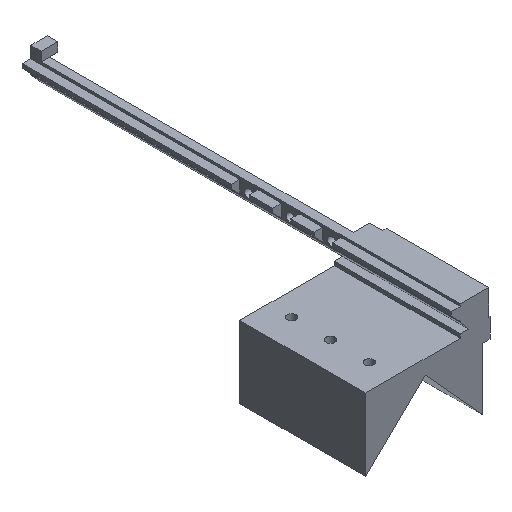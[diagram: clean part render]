
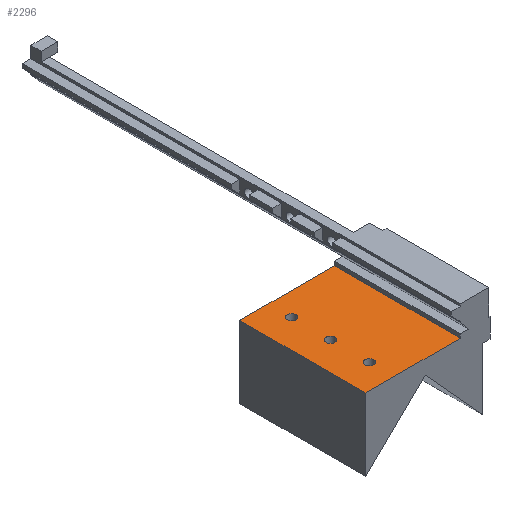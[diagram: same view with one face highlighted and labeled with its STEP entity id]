
A CAD part, isometric view. The second image highlights one B-rep face of the part: STEP entity #2296.
In plain terms, the highlighted planar face has unit normal (0, 0, 1).
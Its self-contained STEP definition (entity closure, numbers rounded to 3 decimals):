
#44 = PLANE('',#45);
#45 = AXIS2_PLACEMENT_3D('',#46,#47,#48);
#46 = CARTESIAN_POINT('',(-14.45,-51.5,93.5));
#47 = DIRECTION('',(0.,1.,0.));
#48 = DIRECTION('',(0.,0.,1.));
#492 = VERTEX_POINT('',#493);
#493 = CARTESIAN_POINT('',(-51.,-51.5,92.));
#507 = PLANE('',#508);
#508 = AXIS2_PLACEMENT_3D('',#509,#510,#511);
#509 = CARTESIAN_POINT('',(-51.,-3.,92.));
#510 = DIRECTION('',(1.,0.,0.));
#511 = DIRECTION('',(0.,0.,-1.));
#519 = EDGE_CURVE('',#520,#492,#522,.T.);
#520 = VERTEX_POINT('',#521);
#521 = CARTESIAN_POINT('',(-14.45,-51.5,92.));
#522 = SURFACE_CURVE('',#523,(#527,#534),.PCURVE_S1.);
#523 = LINE('',#524,#525);
#524 = CARTESIAN_POINT('',(-3.,-51.5,92.));
#525 = VECTOR('',#526,1.);
#526 = DIRECTION('',(-1.,0.,0.));
#527 = PCURVE('',#44,#528);
#528 = DEFINITIONAL_REPRESENTATION('',(#529),#533);
#529 = LINE('',#530,#531);
#530 = CARTESIAN_POINT('',(-1.5,11.45));
#531 = VECTOR('',#532,1.);
#532 = DIRECTION('',(0.,-1.));
#533 = ( GEOMETRIC_REPRESENTATION_CONTEXT(2) 
PARAMETRIC_REPRESENTATION_CONTEXT() REPRESENTATION_CONTEXT('2D SPACE',''
  ) );
#534 = PCURVE('',#535,#540);
#535 = PLANE('',#536);
#536 = AXIS2_PLACEMENT_3D('',#537,#538,#539);
#537 = CARTESIAN_POINT('',(-6.,-3.,92.));
#538 = DIRECTION('',(-0.,-0.,-1.));
#539 = DIRECTION('',(-1.,0.,0.));
#540 = DEFINITIONAL_REPRESENTATION('',(#541),#545);
#541 = LINE('',#542,#543);
#542 = CARTESIAN_POINT('',(-3.,-48.5));
#543 = VECTOR('',#544,1.);
#544 = DIRECTION('',(1.,0.));
#545 = ( GEOMETRIC_REPRESENTATION_CONTEXT(2) 
PARAMETRIC_REPRESENTATION_CONTEXT() REPRESENTATION_CONTEXT('2D SPACE',''
  ) );
#563 = PLANE('',#564);
#564 = AXIS2_PLACEMENT_3D('',#565,#566,#567);
#565 = CARTESIAN_POINT('',(-14.45,-51.5,91.5));
#566 = DIRECTION('',(1.,0.,0.));
#567 = DIRECTION('',(0.,0.,1.));
#1733 = PLANE('',#1734);
#1734 = AXIS2_PLACEMENT_3D('',#1735,#1736,#1737);
#1735 = CARTESIAN_POINT('',(-28.1,-3.,80.419));
#1736 = DIRECTION('',(-0.,-1.,-0.));
#1737 = DIRECTION('',(0.,0.,-1.));
#2093 = CYLINDRICAL_SURFACE('',#2094,1.7);
#2094 = AXIS2_PLACEMENT_3D('',#2095,#2096,#2097);
#2095 = CARTESIAN_POINT('',(-40.,-42.,70.));
#2096 = DIRECTION('',(-0.,0.,-1.));
#2097 = DIRECTION('',(0.,1.,0.));
#2151 = CYLINDRICAL_SURFACE('',#2152,1.7);
#2152 = AXIS2_PLACEMENT_3D('',#2153,#2154,#2155);
#2153 = CARTESIAN_POINT('',(-40.,-27.,70.));
#2154 = DIRECTION('',(-0.,0.,-1.));
#2155 = DIRECTION('',(0.,1.,0.));
#2209 = CYLINDRICAL_SURFACE('',#2210,1.7);
#2210 = AXIS2_PLACEMENT_3D('',#2211,#2212,#2213);
#2211 = CARTESIAN_POINT('',(-40.,-12.,70.));
#2212 = DIRECTION('',(-0.,0.,-1.));
#2213 = DIRECTION('',(0.,1.,0.));
#2251 = EDGE_CURVE('',#2252,#492,#2254,.T.);
#2252 = VERTEX_POINT('',#2253);
#2253 = CARTESIAN_POINT('',(-51.,-3.,92.));
#2254 = SURFACE_CURVE('',#2255,(#2259,#2266),.PCURVE_S1.);
#2255 = LINE('',#2256,#2257);
#2256 = CARTESIAN_POINT('',(-51.,-3.,92.));
#2257 = VECTOR('',#2258,1.);
#2258 = DIRECTION('',(0.,-1.,0.));
#2259 = PCURVE('',#507,#2260);
#2260 = DEFINITIONAL_REPRESENTATION('',(#2261),#2265);
#2261 = LINE('',#2262,#2263);
#2262 = CARTESIAN_POINT('',(0.,0.));
#2263 = VECTOR('',#2264,1.);
#2264 = DIRECTION('',(0.,-1.));
#2265 = ( GEOMETRIC_REPRESENTATION_CONTEXT(2) 
PARAMETRIC_REPRESENTATION_CONTEXT() REPRESENTATION_CONTEXT('2D SPACE',''
  ) );
#2266 = PCURVE('',#535,#2267);
#2267 = DEFINITIONAL_REPRESENTATION('',(#2268),#2272);
#2268 = LINE('',#2269,#2270);
#2269 = CARTESIAN_POINT('',(45.,0.));
#2270 = VECTOR('',#2271,1.);
#2271 = DIRECTION('',(0.,-1.));
#2272 = ( GEOMETRIC_REPRESENTATION_CONTEXT(2) 
PARAMETRIC_REPRESENTATION_CONTEXT() REPRESENTATION_CONTEXT('2D SPACE',''
  ) );
#2296 = ADVANCED_FACE('',(#2297,#2343,#2369,#2395),#535,.F.);
#2297 = FACE_BOUND('',#2298,.F.);
#2298 = EDGE_LOOP('',(#2299,#2300,#2323,#2342));
#2299 = ORIENTED_EDGE('',*,*,#2251,.F.);
#2300 = ORIENTED_EDGE('',*,*,#2301,.T.);
#2301 = EDGE_CURVE('',#2252,#2302,#2304,.T.);
#2302 = VERTEX_POINT('',#2303);
#2303 = CARTESIAN_POINT('',(-14.45,-3.,92.));
#2304 = SURFACE_CURVE('',#2305,(#2309,#2316),.PCURVE_S1.);
#2305 = LINE('',#2306,#2307);
#2306 = CARTESIAN_POINT('',(-51.,-3.,92.));
#2307 = VECTOR('',#2308,1.);
#2308 = DIRECTION('',(1.,0.,0.));
#2309 = PCURVE('',#535,#2310);
#2310 = DEFINITIONAL_REPRESENTATION('',(#2311),#2315);
#2311 = LINE('',#2312,#2313);
#2312 = CARTESIAN_POINT('',(45.,0.));
#2313 = VECTOR('',#2314,1.);
#2314 = DIRECTION('',(-1.,0.));
#2315 = ( GEOMETRIC_REPRESENTATION_CONTEXT(2) 
PARAMETRIC_REPRESENTATION_CONTEXT() REPRESENTATION_CONTEXT('2D SPACE',''
  ) );
#2316 = PCURVE('',#1733,#2317);
#2317 = DEFINITIONAL_REPRESENTATION('',(#2318),#2322);
#2318 = LINE('',#2319,#2320);
#2319 = CARTESIAN_POINT('',(-11.581,-22.9));
#2320 = VECTOR('',#2321,1.);
#2321 = DIRECTION('',(0.,1.));
#2322 = ( GEOMETRIC_REPRESENTATION_CONTEXT(2) 
PARAMETRIC_REPRESENTATION_CONTEXT() REPRESENTATION_CONTEXT('2D SPACE',''
  ) );
#2323 = ORIENTED_EDGE('',*,*,#2324,.T.);
#2324 = EDGE_CURVE('',#2302,#520,#2325,.T.);
#2325 = SURFACE_CURVE('',#2326,(#2330,#2336),.PCURVE_S1.);
#2326 = LINE('',#2327,#2328);
#2327 = CARTESIAN_POINT('',(-14.45,-27.25,92.));
#2328 = VECTOR('',#2329,1.);
#2329 = DIRECTION('',(0.,-1.,0.));
#2330 = PCURVE('',#535,#2331);
#2331 = DEFINITIONAL_REPRESENTATION('',(#2332),#2335);
#2332 = B_SPLINE_CURVE_WITH_KNOTS('',1,(#2333,#2334),.UNSPECIFIED.,.F.,
  .F.,(2,2),(-24.25,24.25),.PIECEWISE_BEZIER_KNOTS.);
#2333 = CARTESIAN_POINT('',(8.45,0.));
#2334 = CARTESIAN_POINT('',(8.45,-48.5));
#2335 = ( GEOMETRIC_REPRESENTATION_CONTEXT(2) 
PARAMETRIC_REPRESENTATION_CONTEXT() REPRESENTATION_CONTEXT('2D SPACE',''
  ) );
#2336 = PCURVE('',#563,#2337);
#2337 = DEFINITIONAL_REPRESENTATION('',(#2338),#2341);
#2338 = B_SPLINE_CURVE_WITH_KNOTS('',1,(#2339,#2340),.UNSPECIFIED.,.F.,
  .F.,(2,2),(-24.25,24.25),.PIECEWISE_BEZIER_KNOTS.);
#2339 = CARTESIAN_POINT('',(0.5,-48.5));
#2340 = CARTESIAN_POINT('',(0.5,0.));
#2341 = ( GEOMETRIC_REPRESENTATION_CONTEXT(2) 
PARAMETRIC_REPRESENTATION_CONTEXT() REPRESENTATION_CONTEXT('2D SPACE',''
  ) );
#2342 = ORIENTED_EDGE('',*,*,#519,.T.);
#2343 = FACE_BOUND('',#2344,.F.);
#2344 = EDGE_LOOP('',(#2345));
#2345 = ORIENTED_EDGE('',*,*,#2346,.F.);
#2346 = EDGE_CURVE('',#2347,#2347,#2349,.T.);
#2347 = VERTEX_POINT('',#2348);
#2348 = CARTESIAN_POINT('',(-40.,-40.3,92.));
#2349 = SURFACE_CURVE('',#2350,(#2355,#2362),.PCURVE_S1.);
#2350 = CIRCLE('',#2351,1.7);
#2351 = AXIS2_PLACEMENT_3D('',#2352,#2353,#2354);
#2352 = CARTESIAN_POINT('',(-40.,-42.,92.));
#2353 = DIRECTION('',(-0.,0.,-1.));
#2354 = DIRECTION('',(0.,1.,0.));
#2355 = PCURVE('',#535,#2356);
#2356 = DEFINITIONAL_REPRESENTATION('',(#2357),#2361);
#2357 = CIRCLE('',#2358,1.7);
#2358 = AXIS2_PLACEMENT_2D('',#2359,#2360);
#2359 = CARTESIAN_POINT('',(34.,-39.));
#2360 = DIRECTION('',(0.,1.));
#2361 = ( GEOMETRIC_REPRESENTATION_CONTEXT(2) 
PARAMETRIC_REPRESENTATION_CONTEXT() REPRESENTATION_CONTEXT('2D SPACE',''
  ) );
#2362 = PCURVE('',#2093,#2363);
#2363 = DEFINITIONAL_REPRESENTATION('',(#2364),#2368);
#2364 = LINE('',#2365,#2366);
#2365 = CARTESIAN_POINT('',(-6.283,-22.));
#2366 = VECTOR('',#2367,1.);
#2367 = DIRECTION('',(1.,-0.));
#2368 = ( GEOMETRIC_REPRESENTATION_CONTEXT(2) 
PARAMETRIC_REPRESENTATION_CONTEXT() REPRESENTATION_CONTEXT('2D SPACE',''
  ) );
#2369 = FACE_BOUND('',#2370,.F.);
#2370 = EDGE_LOOP('',(#2371));
#2371 = ORIENTED_EDGE('',*,*,#2372,.F.);
#2372 = EDGE_CURVE('',#2373,#2373,#2375,.T.);
#2373 = VERTEX_POINT('',#2374);
#2374 = CARTESIAN_POINT('',(-40.,-25.3,92.));
#2375 = SURFACE_CURVE('',#2376,(#2381,#2388),.PCURVE_S1.);
#2376 = CIRCLE('',#2377,1.7);
#2377 = AXIS2_PLACEMENT_3D('',#2378,#2379,#2380);
#2378 = CARTESIAN_POINT('',(-40.,-27.,92.));
#2379 = DIRECTION('',(-0.,0.,-1.));
#2380 = DIRECTION('',(0.,1.,0.));
#2381 = PCURVE('',#535,#2382);
#2382 = DEFINITIONAL_REPRESENTATION('',(#2383),#2387);
#2383 = CIRCLE('',#2384,1.7);
#2384 = AXIS2_PLACEMENT_2D('',#2385,#2386);
#2385 = CARTESIAN_POINT('',(34.,-24.));
#2386 = DIRECTION('',(0.,1.));
#2387 = ( GEOMETRIC_REPRESENTATION_CONTEXT(2) 
PARAMETRIC_REPRESENTATION_CONTEXT() REPRESENTATION_CONTEXT('2D SPACE',''
  ) );
#2388 = PCURVE('',#2151,#2389);
#2389 = DEFINITIONAL_REPRESENTATION('',(#2390),#2394);
#2390 = LINE('',#2391,#2392);
#2391 = CARTESIAN_POINT('',(-6.283,-22.));
#2392 = VECTOR('',#2393,1.);
#2393 = DIRECTION('',(1.,-0.));
#2394 = ( GEOMETRIC_REPRESENTATION_CONTEXT(2) 
PARAMETRIC_REPRESENTATION_CONTEXT() REPRESENTATION_CONTEXT('2D SPACE',''
  ) );
#2395 = FACE_BOUND('',#2396,.F.);
#2396 = EDGE_LOOP('',(#2397));
#2397 = ORIENTED_EDGE('',*,*,#2398,.F.);
#2398 = EDGE_CURVE('',#2399,#2399,#2401,.T.);
#2399 = VERTEX_POINT('',#2400);
#2400 = CARTESIAN_POINT('',(-40.,-10.3,92.));
#2401 = SURFACE_CURVE('',#2402,(#2407,#2414),.PCURVE_S1.);
#2402 = CIRCLE('',#2403,1.7);
#2403 = AXIS2_PLACEMENT_3D('',#2404,#2405,#2406);
#2404 = CARTESIAN_POINT('',(-40.,-12.,92.));
#2405 = DIRECTION('',(-0.,0.,-1.));
#2406 = DIRECTION('',(0.,1.,0.));
#2407 = PCURVE('',#535,#2408);
#2408 = DEFINITIONAL_REPRESENTATION('',(#2409),#2413);
#2409 = CIRCLE('',#2410,1.7);
#2410 = AXIS2_PLACEMENT_2D('',#2411,#2412);
#2411 = CARTESIAN_POINT('',(34.,-9.));
#2412 = DIRECTION('',(0.,1.));
#2413 = ( GEOMETRIC_REPRESENTATION_CONTEXT(2) 
PARAMETRIC_REPRESENTATION_CONTEXT() REPRESENTATION_CONTEXT('2D SPACE',''
  ) );
#2414 = PCURVE('',#2209,#2415);
#2415 = DEFINITIONAL_REPRESENTATION('',(#2416),#2420);
#2416 = LINE('',#2417,#2418);
#2417 = CARTESIAN_POINT('',(-6.283,-22.));
#2418 = VECTOR('',#2419,1.);
#2419 = DIRECTION('',(1.,-0.));
#2420 = ( GEOMETRIC_REPRESENTATION_CONTEXT(2) 
PARAMETRIC_REPRESENTATION_CONTEXT() REPRESENTATION_CONTEXT('2D SPACE',''
  ) );
